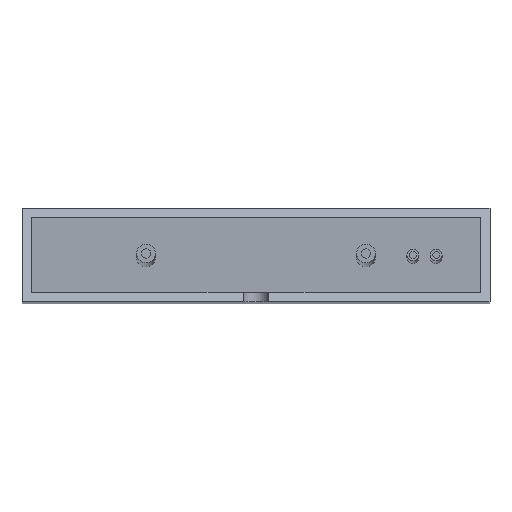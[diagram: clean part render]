
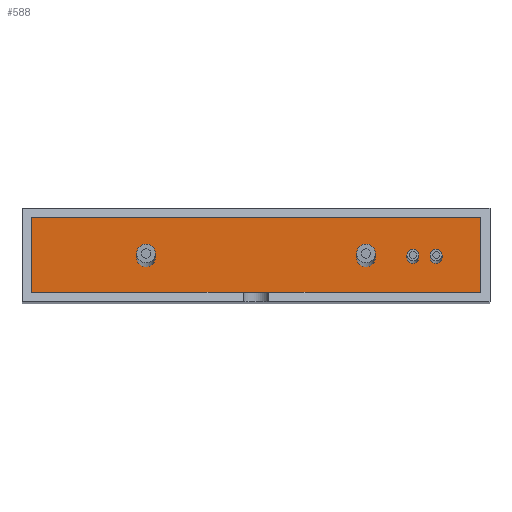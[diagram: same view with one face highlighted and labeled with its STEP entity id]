
A CAD part, top view. The second image highlights one B-rep face of the part: STEP entity #588.
In plain terms, the highlighted planar face has unit normal (0, 0, 1).
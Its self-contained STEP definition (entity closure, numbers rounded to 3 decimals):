
#16=LINE($,#891,#66);
#17=LINE($,#893,#67);
#18=LINE($,#895,#68);
#19=LINE($,#896,#69);
#66=VECTOR($,#740,96.);
#67=VECTOR($,#741,16.);
#68=VECTOR($,#742,96.);
#69=VECTOR($,#743,16.);
#121=PLANE($,#643);
#154=FACE_BOUND($,#219,.T.);
#155=FACE_BOUND($,#220,.T.);
#156=FACE_BOUND($,#221,.T.);
#157=FACE_BOUND($,#222,.T.);
#158=FACE_BOUND($,#223,.T.);
#219=EDGE_LOOP($,(#416));
#220=EDGE_LOOP($,(#417));
#221=EDGE_LOOP($,(#418));
#222=EDGE_LOOP($,(#419));
#223=EDGE_LOOP($,(#420,#421,#422,#423));
#245=CIRCLE($,#616,1.25);
#249=CIRCLE($,#624,1.25);
#253=CIRCLE($,#632,2.);
#257=CIRCLE($,#640,2.);
#265=VERTEX_POINT($,#840);
#269=VERTEX_POINT($,#852);
#273=VERTEX_POINT($,#864);
#277=VERTEX_POINT($,#876);
#282=VERTEX_POINT($,#889);
#283=VERTEX_POINT($,#890);
#284=VERTEX_POINT($,#892);
#285=VERTEX_POINT($,#894);
#317=EDGE_CURVE($,#265,#265,#245,.T.);
#321=EDGE_CURVE($,#269,#269,#249,.T.);
#325=EDGE_CURVE($,#273,#273,#253,.T.);
#329=EDGE_CURVE($,#277,#277,#257,.T.);
#334=EDGE_CURVE($,#282,#283,#16,.T.);
#335=EDGE_CURVE($,#284,#282,#17,.T.);
#336=EDGE_CURVE($,#285,#284,#18,.T.);
#337=EDGE_CURVE($,#283,#285,#19,.T.);
#416=ORIENTED_EDGE($,*,*,#317,.T.);
#417=ORIENTED_EDGE($,*,*,#321,.T.);
#418=ORIENTED_EDGE($,*,*,#325,.T.);
#419=ORIENTED_EDGE($,*,*,#329,.T.);
#420=ORIENTED_EDGE($,*,*,#334,.F.);
#421=ORIENTED_EDGE($,*,*,#335,.F.);
#422=ORIENTED_EDGE($,*,*,#336,.F.);
#423=ORIENTED_EDGE($,*,*,#337,.F.);
#588=ADVANCED_FACE($,(#154,#155,#156,#157,#158),#121,.T.);
#616=AXIS2_PLACEMENT_3D($,#841,#680,#681);
#624=AXIS2_PLACEMENT_3D($,#853,#696,#697);
#632=AXIS2_PLACEMENT_3D($,#865,#712,#713);
#640=AXIS2_PLACEMENT_3D($,#877,#728,#729);
#643=AXIS2_PLACEMENT_3D($,#888,#738,#739);
#680=DIRECTION('center_axis',(0.,0.,
-1.));
#681=DIRECTION('ref_axis',(-1.,0.,0.));
#696=DIRECTION('center_axis',(0.,0.,
-1.));
#697=DIRECTION('ref_axis',(-1.,0.,0.));
#712=DIRECTION('center_axis',(0.,0.,
-1.));
#713=DIRECTION('ref_axis',(-1.,0.,0.));
#728=DIRECTION('center_axis',(0.,0.,
-1.));
#729=DIRECTION('ref_axis',(-1.,0.,0.));
#738=DIRECTION('center_axis',(0.,0.,
1.));
#739=DIRECTION('ref_axis',(1.,0.,0.));
#740=DIRECTION($,(1.,0.,0.));
#741=DIRECTION($,(0.,1.,0.));
#742=DIRECTION($,(-1.,0.,0.));
#743=DIRECTION($,(0.,-1.,0.));
#840=CARTESIAN_POINT('',(41.172,3.909,121.273));
#841=CARTESIAN_POINT('Origin',(39.922,3.909,121.273));
#852=CARTESIAN_POINT('',(46.172,3.909,121.273));
#853=CARTESIAN_POINT('Origin',(44.922,3.909,121.273));
#864=CARTESIAN_POINT('',(-15.078,3.909,121.273));
#865=CARTESIAN_POINT('Origin',(-17.078,3.909,121.273));
#876=CARTESIAN_POINT('',(31.922,3.909,121.273));
#877=CARTESIAN_POINT('Origin',(29.922,3.909,121.273));
#888=CARTESIAN_POINT('Origin',(6.422,4.409,121.273));
#889=CARTESIAN_POINT('',(-41.578,12.409,121.273));
#890=CARTESIAN_POINT('',(54.422,12.409,121.273));
#891=CARTESIAN_POINT($,(31.422,12.409,121.273));
#892=CARTESIAN_POINT('',(-41.578,-3.591,121.273));
#893=CARTESIAN_POINT($,(-41.578,9.409,121.273));
#894=CARTESIAN_POINT('',(54.422,-3.591,121.273));
#895=CARTESIAN_POINT($,(-18.578,-3.591,121.273));
#896=CARTESIAN_POINT($,(54.422,-0.591,121.273));
